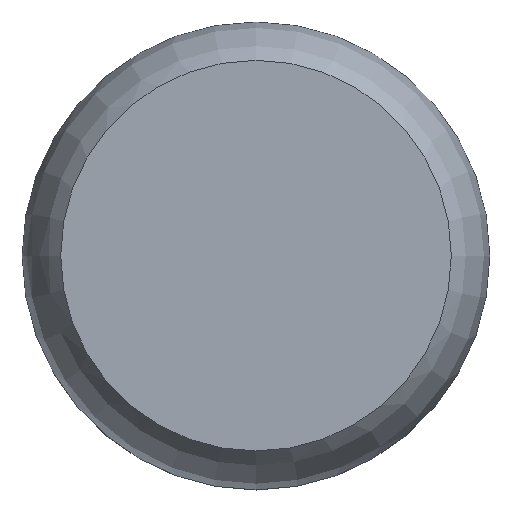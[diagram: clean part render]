
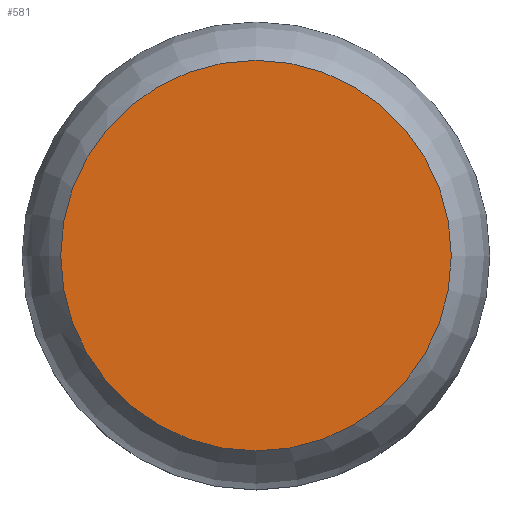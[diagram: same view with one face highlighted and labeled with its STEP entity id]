
A CAD part, top view. The second image highlights one B-rep face of the part: STEP entity #581.
In plain terms, the highlighted planar face has unit normal (0, 0, 1).
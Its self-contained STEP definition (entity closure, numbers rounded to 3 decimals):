
#70=PLANE('',#650);
#99=FACE_OUTER_BOUND('',#139,.T.);
#139=EDGE_LOOP('',(#456,#457));
#206=CIRCLE('',#651,53.456);
#207=CIRCLE('',#652,53.456);
#259=VERTEX_POINT('',#2238);
#260=VERTEX_POINT('',#2239);
#332=EDGE_CURVE('',#259,#260,#206,.T.);
#333=EDGE_CURVE('',#260,#259,#207,.T.);
#456=ORIENTED_EDGE('',*,*,#332,.T.);
#457=ORIENTED_EDGE('',*,*,#333,.T.);
#581=ADVANCED_FACE('',(#99),#70,.T.);
#650=AXIS2_PLACEMENT_3D('',#2237,#761,#762);
#651=AXIS2_PLACEMENT_3D('',#2240,#763,#764);
#652=AXIS2_PLACEMENT_3D('',#2241,#765,#766);
#761=DIRECTION('center_axis',(0.,0.,1.));
#762=DIRECTION('ref_axis',(1.,0.,0.));
#763=DIRECTION('center_axis',(0.,0.,1.));
#764=DIRECTION('ref_axis',(1.,0.,0.));
#765=DIRECTION('center_axis',(0.,0.,1.));
#766=DIRECTION('ref_axis',(1.,0.,0.));
#2237=CARTESIAN_POINT('Origin',(0.,0.,41.456));
#2238=CARTESIAN_POINT('',(0.,-53.456,41.456));
#2239=CARTESIAN_POINT('',(-53.456,0.,41.456));
#2240=CARTESIAN_POINT('Origin',(0.,0.,41.456));
#2241=CARTESIAN_POINT('Origin',(0.,0.,41.456));
